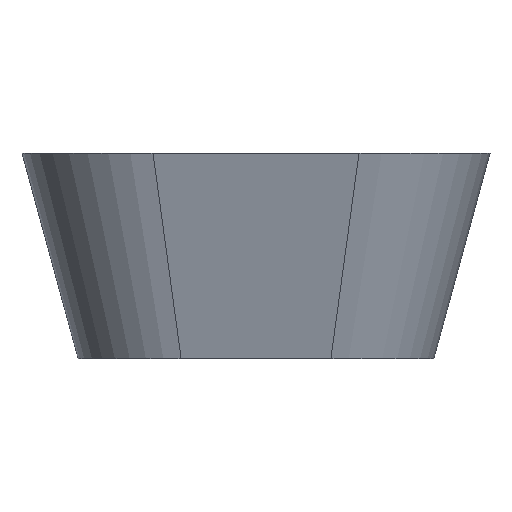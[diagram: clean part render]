
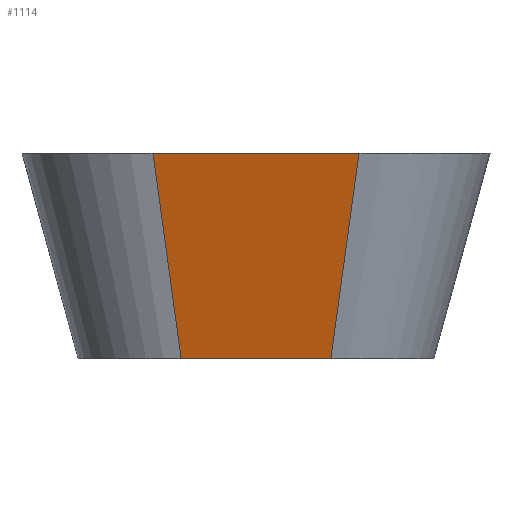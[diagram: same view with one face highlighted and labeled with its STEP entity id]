
A CAD part, front view. The second image highlights one B-rep face of the part: STEP entity #1114.
In plain terms, the highlighted free-form (B-spline) face has degree [1, 1] with [2, 2] control points.
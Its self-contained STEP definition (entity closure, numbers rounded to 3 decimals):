
#61 = PLANE('',#62);
#62 = AXIS2_PLACEMENT_3D('',#63,#64,#65);
#63 = CARTESIAN_POINT('',(-4.,-11.5,0.));
#64 = DIRECTION('',(0.,0.,1.));
#65 = DIRECTION('',(1.,0.,0.));
#88 = B_SPLINE_SURFACE_WITH_KNOTS('',8,1,(
    (#89,#90)
    ,(#91,#92)
    ,(#93,#94)
    ,(#95,#96)
    ,(#97,#98)
    ,(#99,#100)
    ,(#101,#102)
    ,(#103,#104)
    ,(#105,#106
    )),.UNSPECIFIED.,.F.,.F.,.F.,(9,9),(2,2),(3.142,
    4.712),(0.,1.),.PIECEWISE_BEZIER_KNOTS.);
#89 = CARTESIAN_POINT('',(-9.5,-11.5,0.));
#90 = CARTESIAN_POINT('',(-12.5,-13.,11.));
#91 = CARTESIAN_POINT('',(-9.5,-12.58,0.));
#92 = CARTESIAN_POINT('',(-12.5,-14.374,11.));
#93 = CARTESIAN_POINT('',(-9.258,-13.66,0.));
#94 = CARTESIAN_POINT('',(-12.192,-15.749,11.));
#95 = CARTESIAN_POINT('',(-8.773,-14.676,0.));
#96 = CARTESIAN_POINT('',(-11.575,-17.043,11.));
#97 = CARTESIAN_POINT('',(-8.066,-15.566,0.));
#98 = CARTESIAN_POINT('',(-10.675,-18.175,11.));
#99 = CARTESIAN_POINT('',(-7.176,-16.273,0.));
#100 = CARTESIAN_POINT('',(-9.543,-19.075,11.));
#101 = CARTESIAN_POINT('',(-6.16,-16.758,0.));
#102 = CARTESIAN_POINT('',(-8.249,-19.692,11.));
#103 = CARTESIAN_POINT('',(-5.08,-17.,0.));
#104 = CARTESIAN_POINT('',(-6.874,-20.,11.));
#105 = CARTESIAN_POINT('',(-4.,-17.,0.));
#106 = CARTESIAN_POINT('',(-5.5,-20.,11.));
#130 = PLANE('',#131);
#131 = AXIS2_PLACEMENT_3D('',#132,#133,#134);
#132 = CARTESIAN_POINT('',(-5.5,-13.,11.));
#133 = DIRECTION('',(0.,0.,-1.));
#134 = DIRECTION('',(-1.,0.,0.));
#186 = VERTEX_POINT('',#187);
#187 = CARTESIAN_POINT('',(-4.,-17.,0.));
#209 = EDGE_CURVE('',#186,#210,#212,.T.);
#210 = VERTEX_POINT('',#211);
#211 = CARTESIAN_POINT('',(4.,-17.,0.));
#212 = SURFACE_CURVE('',#213,(#217,#224),.PCURVE_S1.);
#213 = LINE('',#214,#215);
#214 = CARTESIAN_POINT('',(0.,-17.,0.));
#215 = VECTOR('',#216,1.);
#216 = DIRECTION('',(1.,0.,0.));
#217 = PCURVE('',#61,#218);
#218 = DEFINITIONAL_REPRESENTATION('',(#219),#223);
#219 = LINE('',#220,#221);
#220 = CARTESIAN_POINT('',(4.,-5.5));
#221 = VECTOR('',#222,1.);
#222 = DIRECTION('',(1.,0.));
#223 = ( GEOMETRIC_REPRESENTATION_CONTEXT(2) 
PARAMETRIC_REPRESENTATION_CONTEXT() REPRESENTATION_CONTEXT('2D SPACE',''
  ) );
#224 = PCURVE('',#225,#230);
#225 = B_SPLINE_SURFACE_WITH_KNOTS('',1,1,(
    (#226,#227)
    ,(#228,#229
    )),.UNSPECIFIED.,.F.,.F.,.F.,(2,2),(2,2),(-5.5,5.5),(0.,
    1.),.PIECEWISE_BEZIER_KNOTS.);
#226 = CARTESIAN_POINT('',(-4.,-17.,0.));
#227 = CARTESIAN_POINT('',(-5.5,-20.,11.));
#228 = CARTESIAN_POINT('',(4.,-17.,0.));
#229 = CARTESIAN_POINT('',(5.5,-20.,11.));
#230 = DEFINITIONAL_REPRESENTATION('',(#231),#234);
#231 = B_SPLINE_CURVE_WITH_KNOTS('',1,(#232,#233),.UNSPECIFIED.,.F.,.F.,
  (2,2),(-4.,4.),.PIECEWISE_BEZIER_KNOTS.);
#232 = CARTESIAN_POINT('',(-5.5,0.));
#233 = CARTESIAN_POINT('',(5.5,0.));
#234 = ( GEOMETRIC_REPRESENTATION_CONTEXT(2) 
PARAMETRIC_REPRESENTATION_CONTEXT() REPRESENTATION_CONTEXT('2D SPACE',''
  ) );
#253 = B_SPLINE_SURFACE_WITH_KNOTS('',8,1,(
    (#254,#255)
    ,(#256,#257)
    ,(#258,#259)
    ,(#260,#261)
    ,(#262,#263)
    ,(#264,#265)
    ,(#266,#267)
    ,(#268,#269)
    ,(#270,#271
    )),.UNSPECIFIED.,.F.,.F.,.F.,(9,9),(2,2),(4.712,
    6.283),(0.,1.),.PIECEWISE_BEZIER_KNOTS.);
#254 = CARTESIAN_POINT('',(4.,-17.,0.));
#255 = CARTESIAN_POINT('',(5.5,-20.,11.));
#256 = CARTESIAN_POINT('',(5.08,-17.,0.));
#257 = CARTESIAN_POINT('',(6.874,-20.,11.));
#258 = CARTESIAN_POINT('',(6.16,-16.758,0.));
#259 = CARTESIAN_POINT('',(8.249,-19.692,11.));
#260 = CARTESIAN_POINT('',(7.176,-16.273,0.));
#261 = CARTESIAN_POINT('',(9.543,-19.075,11.));
#262 = CARTESIAN_POINT('',(8.066,-15.566,0.));
#263 = CARTESIAN_POINT('',(10.675,-18.175,11.));
#264 = CARTESIAN_POINT('',(8.773,-14.676,0.));
#265 = CARTESIAN_POINT('',(11.575,-17.043,11.));
#266 = CARTESIAN_POINT('',(9.258,-13.66,0.));
#267 = CARTESIAN_POINT('',(12.192,-15.749,11.));
#268 = CARTESIAN_POINT('',(9.5,-12.58,0.));
#269 = CARTESIAN_POINT('',(12.5,-14.374,11.));
#270 = CARTESIAN_POINT('',(9.5,-11.5,0.));
#271 = CARTESIAN_POINT('',(12.5,-13.,11.));
#402 = EDGE_CURVE('',#186,#403,#405,.T.);
#403 = VERTEX_POINT('',#404);
#404 = CARTESIAN_POINT('',(-5.5,-20.,11.));
#405 = SURFACE_CURVE('',#406,(#409,#416),.PCURVE_S1.);
#406 = B_SPLINE_CURVE_WITH_KNOTS('',1,(#407,#408),.UNSPECIFIED.,.F.,.F.,
  (2,2),(0.,1.),.PIECEWISE_BEZIER_KNOTS.);
#407 = CARTESIAN_POINT('',(-4.,-17.,0.));
#408 = CARTESIAN_POINT('',(-5.5,-20.,11.));
#409 = PCURVE('',#88,#410);
#410 = DEFINITIONAL_REPRESENTATION('',(#411),#415);
#411 = LINE('',#412,#413);
#412 = CARTESIAN_POINT('',(4.712,0.));
#413 = VECTOR('',#414,1.);
#414 = DIRECTION('',(0.,1.));
#415 = ( GEOMETRIC_REPRESENTATION_CONTEXT(2) 
PARAMETRIC_REPRESENTATION_CONTEXT() REPRESENTATION_CONTEXT('2D SPACE',''
  ) );
#416 = PCURVE('',#225,#417);
#417 = DEFINITIONAL_REPRESENTATION('',(#418),#422);
#418 = LINE('',#419,#420);
#419 = CARTESIAN_POINT('',(-5.5,0.));
#420 = VECTOR('',#421,1.);
#421 = DIRECTION('',(0.,1.));
#422 = ( GEOMETRIC_REPRESENTATION_CONTEXT(2) 
PARAMETRIC_REPRESENTATION_CONTEXT() REPRESENTATION_CONTEXT('2D SPACE',''
  ) );
#546 = VERTEX_POINT('',#547);
#547 = CARTESIAN_POINT('',(5.5,-20.,11.));
#569 = EDGE_CURVE('',#403,#546,#570,.T.);
#570 = SURFACE_CURVE('',#571,(#575,#582),.PCURVE_S1.);
#571 = LINE('',#572,#573);
#572 = CARTESIAN_POINT('',(0.,-20.,11.));
#573 = VECTOR('',#574,1.);
#574 = DIRECTION('',(1.,0.,0.));
#575 = PCURVE('',#130,#576);
#576 = DEFINITIONAL_REPRESENTATION('',(#577),#581);
#577 = LINE('',#578,#579);
#578 = CARTESIAN_POINT('',(-5.5,-7.));
#579 = VECTOR('',#580,1.);
#580 = DIRECTION('',(-1.,0.));
#581 = ( GEOMETRIC_REPRESENTATION_CONTEXT(2) 
PARAMETRIC_REPRESENTATION_CONTEXT() REPRESENTATION_CONTEXT('2D SPACE',''
  ) );
#582 = PCURVE('',#225,#583);
#583 = DEFINITIONAL_REPRESENTATION('',(#584),#588);
#584 = LINE('',#585,#586);
#585 = CARTESIAN_POINT('',(0.,1.));
#586 = VECTOR('',#587,1.);
#587 = DIRECTION('',(1.,0.));
#588 = ( GEOMETRIC_REPRESENTATION_CONTEXT(2) 
PARAMETRIC_REPRESENTATION_CONTEXT() REPRESENTATION_CONTEXT('2D SPACE',''
  ) );
#1114 = ADVANCED_FACE('',(#1115),#225,.T.);
#1115 = FACE_BOUND('',#1116,.T.);
#1116 = EDGE_LOOP('',(#1117,#1118,#1138,#1139));
#1117 = ORIENTED_EDGE('',*,*,#209,.T.);
#1118 = ORIENTED_EDGE('',*,*,#1119,.T.);
#1119 = EDGE_CURVE('',#210,#546,#1120,.T.);
#1120 = SURFACE_CURVE('',#1121,(#1124,#1131),.PCURVE_S1.);
#1121 = B_SPLINE_CURVE_WITH_KNOTS('',1,(#1122,#1123),.UNSPECIFIED.,.F.,
  .F.,(2,2),(0.,1.),.PIECEWISE_BEZIER_KNOTS.);
#1122 = CARTESIAN_POINT('',(4.,-17.,0.));
#1123 = CARTESIAN_POINT('',(5.5,-20.,11.));
#1124 = PCURVE('',#225,#1125);
#1125 = DEFINITIONAL_REPRESENTATION('',(#1126),#1130);
#1126 = LINE('',#1127,#1128);
#1127 = CARTESIAN_POINT('',(5.5,0.));
#1128 = VECTOR('',#1129,1.);
#1129 = DIRECTION('',(0.,1.));
#1130 = ( GEOMETRIC_REPRESENTATION_CONTEXT(2) 
PARAMETRIC_REPRESENTATION_CONTEXT() REPRESENTATION_CONTEXT('2D SPACE',''
  ) );
#1131 = PCURVE('',#253,#1132);
#1132 = DEFINITIONAL_REPRESENTATION('',(#1133),#1137);
#1133 = LINE('',#1134,#1135);
#1134 = CARTESIAN_POINT('',(4.712,0.));
#1135 = VECTOR('',#1136,1.);
#1136 = DIRECTION('',(0.,1.));
#1137 = ( GEOMETRIC_REPRESENTATION_CONTEXT(2) 
PARAMETRIC_REPRESENTATION_CONTEXT() REPRESENTATION_CONTEXT('2D SPACE',''
  ) );
#1138 = ORIENTED_EDGE('',*,*,#569,.F.);
#1139 = ORIENTED_EDGE('',*,*,#402,.F.);
